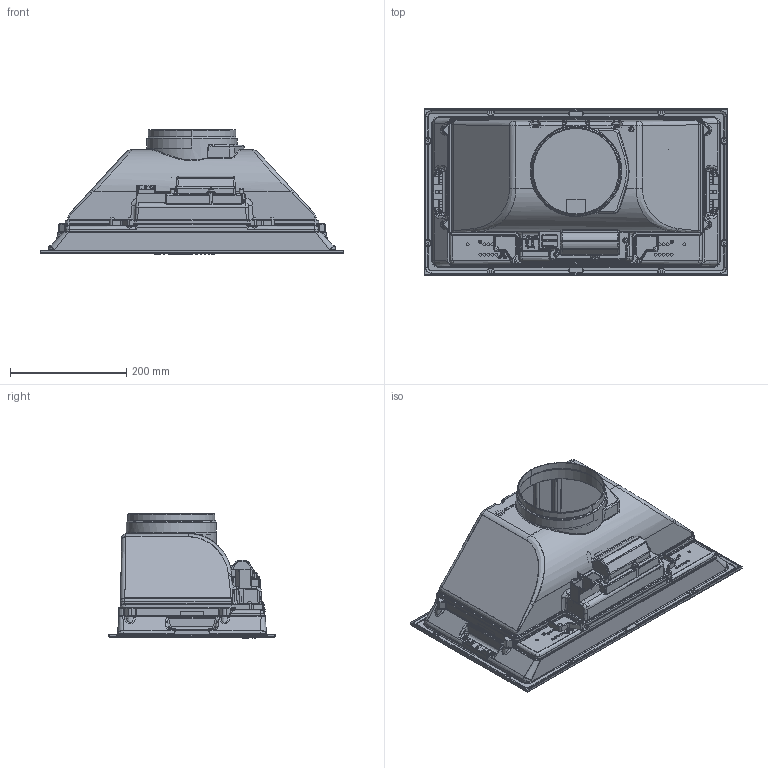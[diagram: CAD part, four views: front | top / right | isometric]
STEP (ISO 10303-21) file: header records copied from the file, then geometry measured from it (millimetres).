
FILE_DESCRIPTION(/* description */ (''),/* implementation_level */ '2;1');
FILE_NAME(/* name */ '3D001_Hoods_Buit-In_FBI-525',/* time_stamp */ '2024-02-12T10:08:46+01:00',/* author */ (''),/* organization */ (''),/* preprocessor_version */ 'ST-DEVELOPER v19.2',/* originating_system */ 'Rhino 8.3',/* authorisation */ '');
FILE_SCHEMA (('CONFIG_CONTROL_DESIGN'));
Products named in the file (15): Document; 305047_030_20_1; 305047_752_ASM_72_ASM_1_ASM; 305047_020_68_1; 305047_751_G_ASM_60_ASM_1_ASM; 305047_023_01_100; K10_004_12_1; K10_005_11_1; 10003_009_05_19_1; 281_111_AF0_40_1; Blocco 04; 305047_008; Blocco 01; 281_001_31_1; Blocco 05
Bounding box: 522 x 286 x 214 mm (x, y, z)
Volume: 505792.1 mm3; surface area: 1184108.7 mm2
Topology: 8 solids, 51 shells, 8742 faces, 22727 edges, 13938 vertices
Faces by surface type: plane 3941, cylinder 2762, bspline 2039
Entity records: 382322 total; most frequent: CARTESIAN_POINT 219000, ORIENTED_EDGE 42360, EDGE_CURVE 21386, B_SPLINE_CURVE_WITH_KNOTS 16621, DIRECTION 15892, VERTEX_POINT 13209, AXIS2_PLACEMENT_3D 11110, EDGE_LOOP 8595
